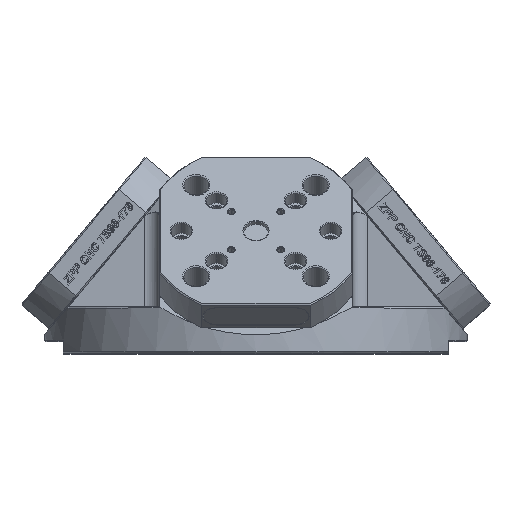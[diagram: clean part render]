
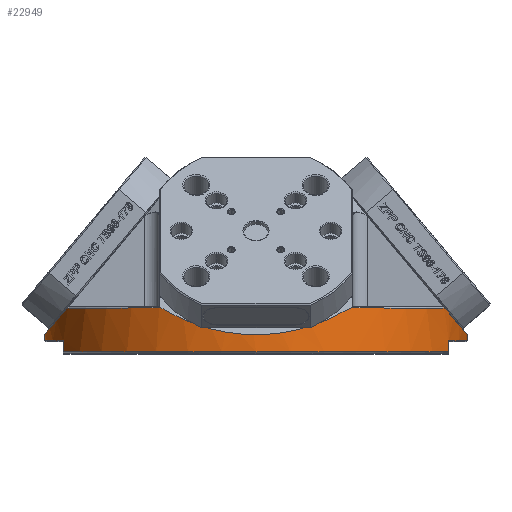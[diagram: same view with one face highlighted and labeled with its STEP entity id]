
A CAD part, top view. The second image highlights one B-rep face of the part: STEP entity #22949.
In plain terms, the highlighted cylindrical face has radius 170 mm (diameter 340 mm), a partial arc.
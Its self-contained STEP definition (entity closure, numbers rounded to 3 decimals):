
#17755=CARTESIAN_POINT('',(0.,1.5,0.));
#17756=DIRECTION('',(0.,1.,0.));
#17757=DIRECTION('',(-0.912,0.,0.411));
#17758=AXIS2_PLACEMENT_3D('',#17755,#17756,#17757);
#17760=CARTESIAN_POINT('',(0.,1.5,0.));
#17761=DIRECTION('',(0.,1.,0.));
#17762=DIRECTION('',(0.,0.,1.));
#17763=AXIS2_PLACEMENT_3D('',#17760,#17761,#17762);
#17805=DIRECTION('',(0.,-1.,0.));
#17806=VECTOR('',#17805,4.703);
#17807=CARTESIAN_POINT('',(-170.,15.203,0.));
#17808=LINE('',#17807,#17806);
#18152=CARTESIAN_POINT('',(170.,15.203,0.));
#18153=CARTESIAN_POINT('',(170.,15.203,14.571));
#18154=CARTESIAN_POINT('',(166.357,19.544,41.735));
#18155=CARTESIAN_POINT('',(157.222,30.431,65.918));
#18156=CARTESIAN_POINT('',(151.396,37.375,77.326));
#18252=CARTESIAN_POINT('',(-77.826,36.903,
151.139));
#18253=CARTESIAN_POINT('',(-77.659,37.06,
151.225));
#18254=CARTESIAN_POINT('',(-77.493,37.217,
151.311));
#18255=CARTESIAN_POINT('',(-77.326,37.375,
151.396));
#18257=CARTESIAN_POINT('',(77.326,37.375,151.396));
#18258=CARTESIAN_POINT('',(77.493,37.217,151.311));
#18259=CARTESIAN_POINT('',(77.659,37.06,151.225));
#18260=CARTESIAN_POINT('',(77.826,36.903,151.139));
#18262=DIRECTION('',(0.,-1.,0.));
#18263=VECTOR('',#18262,0.203);
#18264=CARTESIAN_POINT('',(77.826,36.903,151.139));
#18265=LINE('',#18264,#18263);
#18266=DIRECTION('',(0.,1.,0.));
#18267=VECTOR('',#18266,0.203);
#18268=CARTESIAN_POINT('',(151.139,36.7,77.826));
#18269=LINE('',#18268,#18267);
#18270=CARTESIAN_POINT('',(151.139,36.903,77.826));
#18271=CARTESIAN_POINT('',(151.225,37.06,77.659));
#18272=CARTESIAN_POINT('',(151.311,37.217,77.493));
#18273=CARTESIAN_POINT('',(151.396,37.375,77.326));
#18275=DIRECTION('',(0.,-1.,0.));
#18276=VECTOR('',#18275,4.703);
#18277=CARTESIAN_POINT('',(170.,15.203,0.));
#18278=LINE('',#18277,#18276);
#18279=DIRECTION('',(0.,-1.,0.));
#18280=VECTOR('',#18279,9.);
#18281=CARTESIAN_POINT('',(155.,10.5,69.821));
#18282=LINE('',#18281,#18280);
#18283=DIRECTION('',(0.,1.,0.));
#18284=VECTOR('',#18283,9.);
#18285=CARTESIAN_POINT('',(-155.,1.5,69.821));
#18286=LINE('',#18285,#18284);
#18287=CARTESIAN_POINT('',(-151.396,37.375,
77.326));
#18288=CARTESIAN_POINT('',(-151.311,37.217,
77.493));
#18289=CARTESIAN_POINT('',(-151.225,37.06,
77.659));
#18290=CARTESIAN_POINT('',(-151.139,36.903,
77.826));
#18292=DIRECTION('',(0.,-1.,0.));
#18293=VECTOR('',#18292,0.203);
#18294=CARTESIAN_POINT('',(-151.139,36.903,
77.826));
#18295=LINE('',#18294,#18293);
#18296=DIRECTION('',(0.,1.,0.));
#18297=VECTOR('',#18296,0.203);
#18298=CARTESIAN_POINT('',(-77.826,36.7,151.139));
#18299=LINE('',#18298,#18297);
#18315=CARTESIAN_POINT('',(0.,36.7,0.));
#18316=DIRECTION('',(0.,-1.,0.));
#18317=DIRECTION('',(-0.458,0.,0.889));
#18318=AXIS2_PLACEMENT_3D('',#18315,#18316,#18317);
#18393=CARTESIAN_POINT('',(-151.396,37.375,
77.326));
#18394=CARTESIAN_POINT('',(-153.998,34.273,
72.23));
#18395=CARTESIAN_POINT('',(-158.6,28.79,
61.96));
#18396=CARTESIAN_POINT('',(-163.769,22.629,
46.525));
#18397=CARTESIAN_POINT('',(-167.41,18.29,
30.983));
#18398=CARTESIAN_POINT('',(-169.548,15.742,
15.44));
#18399=CARTESIAN_POINT('',(-170.,15.203,
5.14));
#18400=CARTESIAN_POINT('',(-170.,15.203,0.));
#18402=CARTESIAN_POINT('',(-170.,15.203,0.));
#18819=CARTESIAN_POINT('',(0.,36.7,
0.));
#18820=DIRECTION('',(0.,-1.,0.));
#18821=DIRECTION('',(0.889,0.,0.458));
#18822=AXIS2_PLACEMENT_3D('',#18819,#18820,#18821);
#18907=CARTESIAN_POINT('',(77.326,37.375,151.396));
#18908=CARTESIAN_POINT('',(64.438,29.53,157.978));
#18909=CARTESIAN_POINT('',(38.663,18.658,167.101));
#18910=CARTESIAN_POINT('',(0.,13.476,
171.449));
#18911=CARTESIAN_POINT('',(-38.663,18.658,
167.101));
#18912=CARTESIAN_POINT('',(-64.438,29.53,
157.978));
#18913=CARTESIAN_POINT('',(-77.326,37.375,
151.396));
#19948=CARTESIAN_POINT('',(0.,10.5,
0.));
#19949=DIRECTION('',(0.,1.,0.));
#19950=DIRECTION('',(0.912,0.,0.411));
#19951=AXIS2_PLACEMENT_3D('',#19948,#19949,#19950);
#20000=CARTESIAN_POINT('',(0.,10.5,
0.));
#20001=DIRECTION('',(0.,1.,0.));
#20002=DIRECTION('',(-1.,0.,0.));
#20003=AXIS2_PLACEMENT_3D('',#20000,#20001,#20002);
#21445=VERTEX_POINT('',#18402);
#21446=CARTESIAN_POINT('',(-170.,10.5,0.));
#21447=VERTEX_POINT('',#21446);
#21458=CARTESIAN_POINT('',(170.,10.5,0.));
#21459=VERTEX_POINT('',#21458);
#21460=CARTESIAN_POINT('',(170.,15.203,0.));
#21461=VERTEX_POINT('',#21460);
#21635=CARTESIAN_POINT('',(151.396,37.375,77.326));
#21637=VERTEX_POINT('',#21635);
#21730=VERTEX_POINT('',#18270);
#21733=VERTEX_POINT('',#18252);
#21734=VERTEX_POINT('',#18255);
#21735=VERTEX_POINT('',#18907);
#21736=VERTEX_POINT('',#18260);
#21737=CARTESIAN_POINT('',(77.826,36.7,151.139));
#21738=VERTEX_POINT('',#21737);
#21739=CARTESIAN_POINT('',(151.139,36.7,77.826));
#21740=VERTEX_POINT('',#21739);
#21741=CARTESIAN_POINT('',(155.,10.5,69.821));
#21742=VERTEX_POINT('',#21741);
#21743=CARTESIAN_POINT('',(155.,1.5,69.821));
#21744=VERTEX_POINT('',#21743);
#21745=CARTESIAN_POINT('',(0.,1.5,170.));
#21746=VERTEX_POINT('',#21745);
#21747=CARTESIAN_POINT('',(-155.,1.5,69.821));
#21748=VERTEX_POINT('',#21747);
#21749=CARTESIAN_POINT('',(-155.,10.5,69.821));
#21750=VERTEX_POINT('',#21749);
#21751=VERTEX_POINT('',#18393);
#21752=VERTEX_POINT('',#18290);
#21753=CARTESIAN_POINT('',(-151.139,36.7,77.826));
#21754=VERTEX_POINT('',#21753);
#21755=CARTESIAN_POINT('',(-77.826,36.7,151.139));
#21756=VERTEX_POINT('',#21755);
#22907=CARTESIAN_POINT('',(0.,0.,0.));
#22908=DIRECTION('',(0.,1.,0.));
#22909=DIRECTION('',(1.,0.,0.));
#22910=AXIS2_PLACEMENT_3D('',#22907,#22908,#22909);
#22911=CYLINDRICAL_SURFACE('',#22910,170.);
#22913=ORIENTED_EDGE('',*,*,#22912,.T.);
#22915=ORIENTED_EDGE('',*,*,#22914,.F.);
#22917=ORIENTED_EDGE('',*,*,#22916,.T.);
#22919=ORIENTED_EDGE('',*,*,#22918,.T.);
#22921=ORIENTED_EDGE('',*,*,#22920,.F.);
#22923=ORIENTED_EDGE('',*,*,#22922,.T.);
#22924=ORIENTED_EDGE('',*,*,#22897,.T.);
#22925=ORIENTED_EDGE('',*,*,#22833,.F.);
#22926=ORIENTED_EDGE('',*,*,#22520,.T.);
#22928=ORIENTED_EDGE('',*,*,#22927,.F.);
#22930=ORIENTED_EDGE('',*,*,#22929,.T.);
#22931=ORIENTED_EDGE('',*,*,#22469,.F.);
#22932=ORIENTED_EDGE('',*,*,#22467,.F.);
#22933=ORIENTED_EDGE('',*,*,#22494,.T.);
#22935=ORIENTED_EDGE('',*,*,#22934,.F.);
#22936=ORIENTED_EDGE('',*,*,#22509,.F.);
#22938=ORIENTED_EDGE('',*,*,#22937,.F.);
#22940=ORIENTED_EDGE('',*,*,#22939,.T.);
#22942=ORIENTED_EDGE('',*,*,#22941,.T.);
#22944=ORIENTED_EDGE('',*,*,#22943,.F.);
#22946=ORIENTED_EDGE('',*,*,#22945,.T.);
#22947=EDGE_LOOP('',(#22913,#22915,#22917,#22919,#22921,#22923,#22924,#22925,
#22926,#22928,#22930,#22931,#22932,#22933,#22935,#22936,#22938,#22940,#22942,
#22944,#22946));
#22948=FACE_OUTER_BOUND('',#22947,.F.);
#22949=ADVANCED_FACE('',(#22948),#22911,.T.);
#17759=CIRCLE('',#17758,170.);
#17764=CIRCLE('',#17763,170.);
#18157=B_SPLINE_CURVE_WITH_KNOTS('',3,(#18152,#18153,#18154,#18155,#18156),
.UNSPECIFIED.,.F.,.F.,(4,1,4),(0.,0.5,1.),.UNSPECIFIED.);
#18256=B_SPLINE_CURVE_WITH_KNOTS('',3,(#18252,#18253,#18254,#18255),
.UNSPECIFIED.,.F.,.F.,(4,4),(0.,1.),.UNSPECIFIED.);
#18261=B_SPLINE_CURVE_WITH_KNOTS('',3,(#18257,#18258,#18259,#18260),
.UNSPECIFIED.,.F.,.F.,(4,4),(0.,1.),.UNSPECIFIED.);
#18274=B_SPLINE_CURVE_WITH_KNOTS('',3,(#18270,#18271,#18272,#18273),
.UNSPECIFIED.,.F.,.F.,(4,4),(0.,1.),.UNSPECIFIED.);
#18291=B_SPLINE_CURVE_WITH_KNOTS('',3,(#18287,#18288,#18289,#18290),
.UNSPECIFIED.,.F.,.F.,(4,4),(0.,1.),.UNSPECIFIED.);
#18319=CIRCLE('',#18318,170.);
#18401=B_SPLINE_CURVE_WITH_KNOTS('',3,(#18393,#18394,#18395,#18396,#18397,
#18398,#18399,#18400),.UNSPECIFIED.,.F.,.F.,(4,1,1,1,1,4),(0.,0.2,0.4,
0.6,0.8,1.),.UNSPECIFIED.);
#18823=CIRCLE('',#18822,170.);
#18914=B_SPLINE_CURVE_WITH_KNOTS('',3,(#18907,#18908,#18909,#18910,#18911,
#18912,#18913),.UNSPECIFIED.,.F.,.F.,(4,1,1,1,4),(0.,0.25,0.5,0.75,
1.),.UNSPECIFIED.);
#19952=CIRCLE('',#19951,170.);
#20004=CIRCLE('',#20003,170.);
#22467=EDGE_CURVE('',#21748,#21746,#17759,.T.);
#22469=EDGE_CURVE('',#21746,#21744,#17764,.T.);
#22494=EDGE_CURVE('',#21748,#21750,#18286,.T.);
#22509=EDGE_CURVE('',#21445,#21447,#17808,.T.);
#22520=EDGE_CURVE('',#21461,#21459,#18278,.T.);
#22833=EDGE_CURVE('',#21461,#21637,#18157,.T.);
#22897=EDGE_CURVE('',#21730,#21637,#18274,.T.);
#22912=EDGE_CURVE('',#21733,#21734,#18256,.T.);
#22914=EDGE_CURVE('',#21735,#21734,#18914,.T.);
#22916=EDGE_CURVE('',#21735,#21736,#18261,.T.);
#22918=EDGE_CURVE('',#21736,#21738,#18265,.T.);
#22920=EDGE_CURVE('',#21740,#21738,#18823,.T.);
#22922=EDGE_CURVE('',#21740,#21730,#18269,.T.);
#22927=EDGE_CURVE('',#21742,#21459,#19952,.T.);
#22929=EDGE_CURVE('',#21742,#21744,#18282,.T.);
#22934=EDGE_CURVE('',#21447,#21750,#20004,.T.);
#22937=EDGE_CURVE('',#21751,#21445,#18401,.T.);
#22939=EDGE_CURVE('',#21751,#21752,#18291,.T.);
#22941=EDGE_CURVE('',#21752,#21754,#18295,.T.);
#22943=EDGE_CURVE('',#21756,#21754,#18319,.T.);
#22945=EDGE_CURVE('',#21756,#21733,#18299,.T.);
